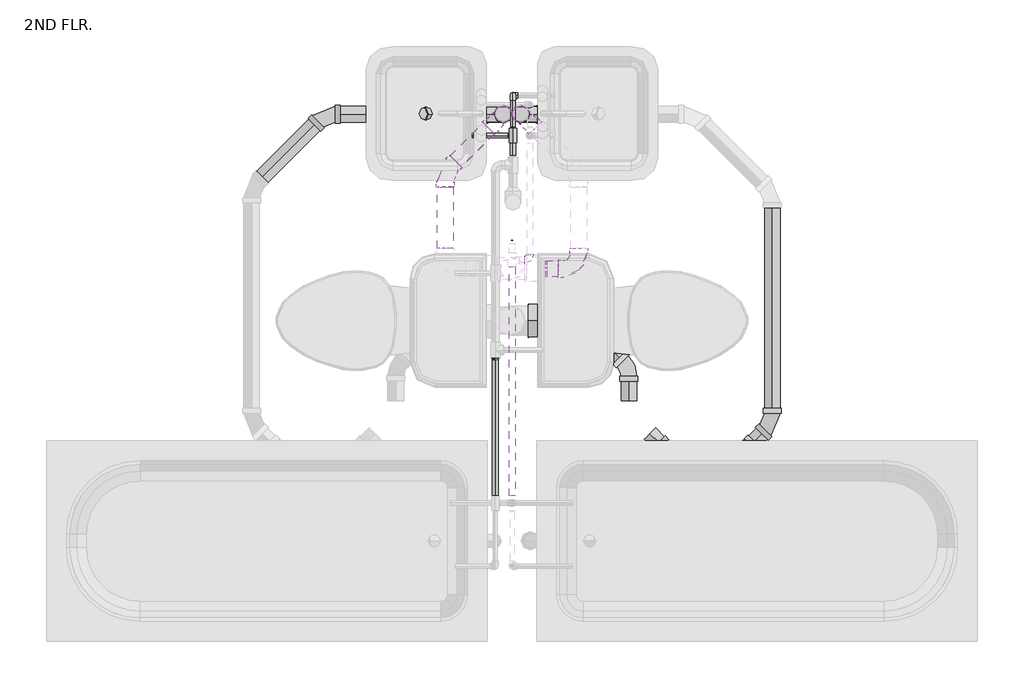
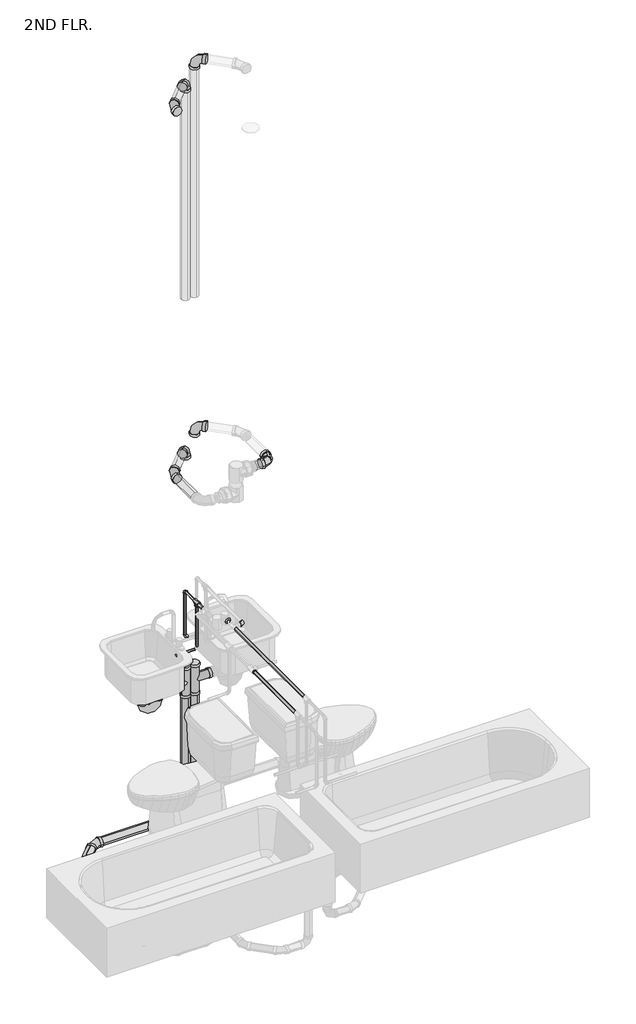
# One storey, part 14 of 15: 31 pipe segments, 27 pipe fittings.
"""IFC4 building model written with IfcOpenShell, lengths in millimetres."""

from ifc_helpers import new_model, si_unit, point, frame, frame_2d, origin, place, context, project, spatial, circle_curve, trimmed, segment, composite_curve, outline, extrude, transform, mapped, element, save
from components import bend_pvc_sch_40_dwv_standard_e59a9f3a, bend_pvc_sch_40_dwv_standard_f2f5988a, bend_pvc_sch_40_dwv_standard_1eaeee76, bend_pvc_sch_40_dwv_standard_dc84db8a, bend_pvc_sch_40_dwv_standard_64a347df, bend_pvc_sch_40_dwv_standard_72717ed5, bend_pvc_sch_40_dwv_standard_49f8c181, bend_pvc_sch_40_dwv_standard_f64d1520, bend_pvc_sch_40_dwv_standard_56c8873b, ges_wye_45_deg_reducing_pvc_sch_40_dwv_standard_31e91cc2, ges_wye_45_deg_reducing_pvc_sch_40_dwv_standard_a2c526eb, pipe_elbow_copper_k_feaaf02c, pipe_elbow_copper_k_aad62f2d, pipe_tee_copper_k_ee363fbf, pipe_transition_copper_k_b4f16853, pipe_transition_copper_k_020baa9e, reducer_pvc_sch_40_dwv_standard_58c00515, standard_8c31f35f

model = new_model("IFC4")

# Units and contexts
model_context = context("Model", 3, world=origin())
ifc_project = project(units=[si_unit("LENGTHUNIT", "METRE", prefix="MILLI")], contexts=[model_context])

# Site, building, storey
site = spatial("IfcSite", under=ifc_project)
building = spatial("IfcBuilding", under=site)
storey = spatial("IfcBuildingStorey", under=building, Name="2ND FLR.", Elevation=2844.8)

# Pipe fittings
placement = place(None, origin())
bend_pvc_sch_40_dwv_standard_shape = bend_pvc_sch_40_dwv_standard_e59a9f3a(model_context)
element("IfcPipeFitting", 1, ObjectType="Bend - PVC - Sch 40 - DWV : Standard", at=placement, inside=storey, context=model_context, shape_type="MappedRepresentation", body=[
    mapped(bend_pvc_sch_40_dwv_standard_shape, transform((17387.0324353, 7019.0003975, 2448.8949826), x_axis=(0.7071067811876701, 0.7071067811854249, 0.0), y_axis=(-0.7071067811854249, 0.7071067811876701, 0.0), z_axis=(0.0, 0.0, 1.0))),
])
bend_pvc_sch_40_dwv_standard_2_shape = bend_pvc_sch_40_dwv_standard_f2f5988a(model_context)
element("IfcPipeFitting", 2, ObjectType="Bend - PVC - Sch 40 - DWV : Standard", at=placement, inside=storey, context=model_context, shape_type="MappedRepresentation", body=[
    mapped(bend_pvc_sch_40_dwv_standard_2_shape, transform((17932.9116861, 7289.6197731, 2448.8689525), x_axis=(0.707106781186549, 0.707106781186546, 0.0), y_axis=(-0.707106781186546, 0.707106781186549, 0.0), z_axis=(0.0, 0.0, 1.0))),
])
element("IfcPipeFitting", 3, ObjectType="Bend - PVC - Sch 40 - DWV : Standard", at=placement, inside=storey, context=model_context, shape_type="MappedRepresentation", body=[
    mapped(bend_pvc_sch_40_dwv_standard_2_shape, transform((17823.0889044, 7179.7969914, 2448.8689525), x_axis=(1.0, 0.0, 0.0), y_axis=(0.0, 1.0, 0.0), z_axis=(0.0, 0.0, 1.0))),
])
bend_pvc_sch_40_dwv_standard_3_shape = bend_pvc_sch_40_dwv_standard_1eaeee76(model_context)
element("IfcPipeFitting", 4, ObjectType="Bend - PVC - Sch 40 - DWV : Standard", at=placement, inside=storey, context=model_context, shape_type="MappedRepresentation", body=[
    mapped(bend_pvc_sch_40_dwv_standard_3_shape, transform((16975.4347258, 8465.2676718, 2448.8904025), x_axis=(0.0, 0.0, -1.0), y_axis=(1.0, 0.0, 0.0), z_axis=(0.0, -1.0, 0.0))),
])
element("IfcPipeFitting", 5, ObjectType="Bend - PVC - Sch 40 - DWV : Standard", at=placement, inside=storey, context=model_context, shape_type="MappedRepresentation", body=[
    mapped(bend_pvc_sch_40_dwv_standard_3_shape, transform((17196.3084875, 7876.8887644, 5283.2), x_axis=(1.0, 0.0, 0.0), y_axis=(0.0, 0.9999999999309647, -1.1750347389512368e-05), z_axis=(0.0, 1.1750347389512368e-05, 0.9999999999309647))),
])
element("IfcPipeFitting", 6, ObjectType="Bend - PVC - Sch 40 - DWV : Standard", at=placement, inside=storey, context=model_context, shape_type="MappedRepresentation", body=[
    mapped(bend_pvc_sch_40_dwv_standard_3_shape, transform((16975.4348028, 8465.2711191, 8127.995709), x_axis=(0.0, 0.0, 1.0), y_axis=(0.7071067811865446, -0.7071067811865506, 0.0), z_axis=(0.7071067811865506, 0.7071067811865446, 0.0))),
])
element("IfcPipeFitting", 7, ObjectType="Bend - PVC - Sch 40 - DWV : Standard", at=placement, inside=storey, context=model_context, shape_type="MappedRepresentation", body=[
    mapped(bend_pvc_sch_40_dwv_standard_3_shape, transform((16975.4348028, 8465.2711191, 5283.195709), x_axis=(0.0, 0.0, 1.0), y_axis=(0.7071067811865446, -0.7071067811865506, 0.0), z_axis=(0.7071067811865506, 0.7071067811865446, 0.0))),
])
bend_pvc_sch_40_dwv_standard_4_shape = bend_pvc_sch_40_dwv_standard_dc84db8a(model_context)
element("IfcPipeFitting", 8, ObjectType="Bend - PVC - Sch 40 - DWV : Standard", at=placement, inside=storey, context=model_context, shape_type="MappedRepresentation", body=[
    mapped(bend_pvc_sch_40_dwv_standard_4_shape, transform((17494.7109214, 7679.2137881, 2447.8717279), x_axis=(0.9999739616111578, 0.0, -0.0072163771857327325), y_axis=(0.0072163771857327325, 0.0, 0.9999739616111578), z_axis=(0.0, -1.0, 0.0))),
])
bend_pvc_sch_40_dwv_standard_5_shape = bend_pvc_sch_40_dwv_standard_64a347df(model_context)
element("IfcPipeFitting", 9, ObjectType="Bend - PVC - Sch 40 - DWV : Standard", at=placement, inside=storey, context=model_context, shape_type="MappedRepresentation", body=[
    mapped(bend_pvc_sch_40_dwv_standard_5_shape, transform((17387.0324353, 7501.2987647, 2448.8949826), x_axis=(0.0, 1.0, 0.0), y_axis=(-0.9999186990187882, 0.0, 0.012751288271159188), z_axis=(0.012751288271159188, 0.0, 0.9999186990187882))),
])
bend_pvc_sch_40_dwv_standard_6_shape = bend_pvc_sch_40_dwv_standard_72717ed5(model_context)
element("IfcPipeFitting", 10, ObjectType="Bend - PVC - Sch 40 - DWV : Standard", at=placement, inside=storey, context=model_context, shape_type="MappedRepresentation", body=[
    mapped(bend_pvc_sch_40_dwv_standard_6_shape, transform((17537.5048204, 7179.7969914, 2448.8689525), x_axis=(0.7071067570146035, -0.7071067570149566, -0.0002614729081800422), y_axis=(0.7071068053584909, 0.7071067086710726, 0.0002614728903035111), z_axis=(0.0, -0.0003697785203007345, 0.9999999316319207))),
])
bend_pvc_sch_40_dwv_standard_7_shape = bend_pvc_sch_40_dwv_standard_49f8c181(model_context)
element("IfcPipeFitting", 11, ObjectType="Bend - PVC - Sch 40 - DWV : Standard", at=placement, inside=storey, context=model_context, shape_type="MappedRepresentation", body=[
    mapped(bend_pvc_sch_40_dwv_standard_7_shape, transform((16909.1822491, 8465.2975466, 2291.20951), x_axis=(0.0, 0.0, -1.0), y_axis=(1.0, 0.0, 0.0), z_axis=(0.0, -1.0, 0.0))),
])
element("IfcPipeFitting", 12, ObjectType="Bend - PVC - Sch 40 - DWV : Standard", at=placement, inside=storey, context=model_context, shape_type="MappedRepresentation", body=[
    mapped(bend_pvc_sch_40_dwv_standard_7_shape, transform((16909.2449931, 8465.2082981, 7975.5947608), x_axis=(0.0, 0.0, 1.0), y_axis=(0.7071067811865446, 0.7071067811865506, 0.0), z_axis=(-0.7071067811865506, 0.7071067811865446, 0.0))),
])
element("IfcPipeFitting", 13, ObjectType="Bend - PVC - Sch 40 - DWV : Standard", at=placement, inside=storey, context=model_context, shape_type="MappedRepresentation", body=[
    mapped(bend_pvc_sch_40_dwv_standard_7_shape, transform((16909.2449931, 8465.2082981, 5130.7947608), x_axis=(0.0, 0.0, 1.0), y_axis=(0.7071067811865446, 0.7071067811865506, 0.0), z_axis=(-0.7071067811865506, 0.7071067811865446, 0.0))),
])
bend_pvc_sch_40_dwv_standard_8_shape = bend_pvc_sch_40_dwv_standard_f64d1520(model_context)
element("IfcPipeFitting", 14, ObjectType="Bend - PVC - Sch 40 - DWV : Standard", at=placement, inside=storey, context=model_context, shape_type="MappedRepresentation", body=[
    mapped(bend_pvc_sch_40_dwv_standard_8_shape, transform((16231.2763671, 8465.2975466, 2291.20951), x_axis=(0.707106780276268, 0.7071067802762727, 5.0741035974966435e-05), y_axis=(-0.7071067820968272, 0.7071067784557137, 5.074103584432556e-05), z_axis=(0.0, -7.17586611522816e-05, 0.9999999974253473))),
])
element("IfcPipeFitting", 15, ObjectType="Bend - PVC - Sch 40 - DWV : Standard", at=placement, inside=storey, context=model_context, shape_type="MappedRepresentation", body=[
    mapped(bend_pvc_sch_40_dwv_standard_8_shape, transform((16688.3084875, 8244.2717925, 7975.5957104), x_axis=(0.0, 0.9999999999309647, -1.1750347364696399e-05), y_axis=(-0.9999999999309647, 1.3807066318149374e-10, 1.175034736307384e-05), z_axis=(1.1750347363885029e-05, 1.175034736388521e-05, 0.9999999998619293))),
])
element("IfcPipeFitting", 16, ObjectType="Bend - PVC - Sch 40 - DWV : Standard", at=placement, inside=storey, context=model_context, shape_type="MappedRepresentation", body=[
    mapped(bend_pvc_sch_40_dwv_standard_8_shape, transform((16688.3084875, 8244.2717925, 5130.7957104), x_axis=(0.0, 0.9999999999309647, -1.1750347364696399e-05), y_axis=(-0.9999999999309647, 1.3807066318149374e-10, 1.175034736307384e-05), z_axis=(1.1750347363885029e-05, 1.175034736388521e-05, 0.9999999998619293))),
])
bend_pvc_sch_40_dwv_standard_9_shape = bend_pvc_sch_40_dwv_standard_56c8873b(model_context)
element("IfcPipeFitting", 17, ObjectType="Bend - PVC - Sch 40 - DWV : Standard", at=placement, inside=storey, context=model_context, shape_type="MappedRepresentation", body=[
    mapped(bend_pvc_sch_40_dwv_standard_9_shape, transform((17196.3084875, 7876.8887644, 5283.1990858), x_axis=(0.9999989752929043, 0.0, -0.0014315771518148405), y_axis=(-1.2572894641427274e-08, 0.9999999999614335, -8.782538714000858e-06), z_axis=(0.0014315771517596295, 8.782547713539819e-06, 0.9999989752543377))),
])
ges_wye_45_deg_reducing_pvc_sch_40_dwv_standard_shape = ges_wye_45_deg_reducing_pvc_sch_40_dwv_standard_31e91cc2(model_context)
element("IfcPipeFitting", 18, ObjectType="GES Wye 45 Deg Reducing - PVC - Sch 40 - DWV : Standard", at=placement, inside=storey, context=model_context, shape_type="MappedRepresentation", body=[
    mapped(ges_wye_45_deg_reducing_pvc_sch_40_dwv_standard_shape, transform((16975.4347258, 8465.2710421, 3322.6721683), x_axis=(0.0, 0.0, 1.0), y_axis=(-1.0, 0.0, 0.0), z_axis=(0.0, -1.0, 0.0))),
])
ges_wye_45_deg_reducing_pvc_sch_40_dwv_standard_2_shape = ges_wye_45_deg_reducing_pvc_sch_40_dwv_standard_a2c526eb(model_context)
element("IfcPipeFitting", 19, ObjectType="GES Wye 45 Deg Reducing - PVC - Sch 40 - DWV : Standard", at=placement, inside=storey, context=model_context, shape_type="MappedRepresentation", body=[
    mapped(ges_wye_45_deg_reducing_pvc_sch_40_dwv_standard_2_shape, transform((16909.1822491, 8465.2710421, 3322.6721683), x_axis=(0.0, 0.0, 1.0), y_axis=(-1.0, 0.0, 0.0), z_axis=(0.0, -1.0, 0.0))),
])
pipe_elbow_copper_k_shape = pipe_elbow_copper_k_feaaf02c(model_context)
element("IfcPipeFitting", 20, ObjectType="Pipe Elbow : Copper- K", at=placement, inside=storey, context=model_context, shape_type="MappedRepresentation", body=[
    mapped(pipe_elbow_copper_k_shape, transform((17010.9709875, 7910.5468309, 4064.0), x_axis=(1.0, 0.0, 0.0), y_axis=(0.0, 1.0, 0.0), z_axis=(0.0, 0.0, 1.0))),
])
pipe_elbow_copper_k_2_shape = pipe_elbow_copper_k_aad62f2d(model_context)
element("IfcPipeFitting", 21, ObjectType="Pipe Elbow : Copper- K", at=placement, inside=storey, context=model_context, shape_type="MappedRepresentation", body=[
    mapped(pipe_elbow_copper_k_2_shape, transform((16945.8834875, 8536.03262, 3962.4), x_axis=(0.0, 1.0, 0.0), y_axis=(0.0, 0.0, -1.0), z_axis=(-1.0, 0.0, 0.0))),
])
element("IfcPipeFitting", 22, ObjectType="Pipe Elbow : Copper- K", at=placement, inside=storey, context=model_context, shape_type="MappedRepresentation", body=[
    mapped(pipe_elbow_copper_k_2_shape, transform((16945.8834875, 8536.03262, 3606.8), x_axis=(0.0, 0.0, -1.0), y_axis=(1.0, 0.0, 0.0), z_axis=(0.0, -1.0, 0.0))),
])
pipe_tee_copper_k_shape = pipe_tee_copper_k_ee363fbf(model_context)
element("IfcPipeFitting", 23, ObjectType="Pipe Tee : Copper- K", at=placement, inside=storey, context=model_context, shape_type="MappedRepresentation", body=[
    mapped(pipe_tee_copper_k_shape, transform((16945.8834875, 8383.3740436, 3962.4), x_axis=(0.0, -1.0, 0.0), y_axis=(0.0, 0.0, 1.0), z_axis=(-1.0, 0.0, 0.0))),
])
pipe_transition_copper_k_shape = pipe_transition_copper_k_b4f16853(model_context)
element("IfcPipeFitting", 24, ObjectType="Pipe Transition : Copper- K", at=placement, inside=storey, context=model_context, shape_type="MappedRepresentation", body=[
    mapped(pipe_transition_copper_k_shape, transform((16879.2084875, 7537.3873426, 3962.4), x_axis=(0.0, -1.0, 0.0), y_axis=(1.0, 0.0, 0.0), z_axis=(0.0, 0.0, 1.0))),
])
pipe_transition_copper_k_2_shape = pipe_transition_copper_k_020baa9e(model_context)
element("IfcPipeFitting", 25, ObjectType="Pipe Transition : Copper- K", at=placement, inside=storey, context=model_context, shape_type="MappedRepresentation", body=[
    mapped(pipe_transition_copper_k_2_shape, transform((16942.3721831, 7984.6511076, 4064.0), x_axis=(0.012699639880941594, -0.9999193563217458, 0.0), y_axis=(0.9999193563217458, 0.012699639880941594, 0.0), z_axis=(0.0, 0.0, 1.0))),
])
reducer_pvc_sch_40_dwv_standard_shape = reducer_pvc_sch_40_dwv_standard_58c00515(model_context)
element("IfcPipeFitting", 26, ObjectType="Reducer - PVC - Sch 40 - DWV : Standard", at=placement, inside=storey, context=model_context, shape_type="MappedRepresentation", body=[
    mapped(reducer_pvc_sch_40_dwv_standard_shape, transform((17004.0174651, 7679.2137881, 2451.4128491), x_axis=(0.9999739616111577, 0.0, -0.007216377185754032), y_axis=(0.007216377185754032, 0.0, 0.9999739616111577), z_axis=(0.0, -1.0, 0.0))),
])
standard_shape = standard_8c31f35f(model_context)
element("IfcPipeFitting", 27, ObjectType="GES P TRAP PVC Sch 40 - DWV : Standard", at=placement, inside=storey, context=model_context, shape_type="MappedRepresentation", body=[
    mapped(standard_shape, transform((16589.3699643, 8465.2710421, 3322.6721683), x_axis=(0.0, 0.0, -1.0), y_axis=(-1.0, 0.0, 0.0), z_axis=(0.0, 1.0, 0.0))),
])

# Pipe segments
element("IfcPipeSegment", 28, ObjectType="Copper", at=placement, inside=storey, context=model_context, shape_type="SweptSolid", body=[
    extrude(outline(composite_curve([segment(trimmed(circle_curve(frame_2d((3962.4, 16945.8834875)), 7.9375), [point((3962.4, 16953.8209875))], [point((3970.3375, 16945.8834875))], False, "CARTESIAN"), True, "CONTINUOUS"), segment(trimmed(circle_curve(frame_2d((3962.4, 16945.8834875)), 7.9375), [point((3970.3375, 16945.8834875))], [point((3962.4, 16937.9459875))], False, "CARTESIAN"), True, "CONTINUOUS"), segment(trimmed(circle_curve(frame_2d((3962.4, 16945.8834875)), 7.9375), [point((3962.4, 16937.9459875))], [point((3954.4625, 16945.8834875))], False, "CARTESIAN"), True, "CONTINUOUS"), segment(trimmed(circle_curve(frame_2d((3962.4, 16945.8834875)), 7.9375), [point((3954.4625, 16945.8834875))], [point((3962.4, 16953.8209875))], False, "CARTESIAN"), True, "CONTINUOUS")], self_intersect=False)), frame((0.0, 8415.9177936, 0.0), z_axis=(0.0, 1.0, 0.0), x_axis=(0.0, 0.0, 1.0)), (0.0, 0.0, 1.0), 102.6523264),
])
element("IfcPipeSegment", 29, ObjectType="Copper", at=placement, inside=storey, context=model_context, shape_type="SweptSolid", body=[
    extrude(outline(composite_curve([segment(trimmed(circle_curve(frame_2d((16945.8834875, 8536.03262)), 7.9375), [point((16953.8209875, 8536.03262))], [point((16945.8834875, 8528.09512))], False, "CARTESIAN"), True, "CONTINUOUS"), segment(trimmed(circle_curve(frame_2d((16945.8834875, 8536.03262)), 7.9375), [point((16945.8834875, 8528.09512))], [point((16937.9459875, 8536.03262))], False, "CARTESIAN"), True, "CONTINUOUS"), segment(trimmed(circle_curve(frame_2d((16945.8834875, 8536.03262)), 7.9375), [point((16937.9459875, 8536.03262))], [point((16945.8834875, 8543.97012))], False, "CARTESIAN"), True, "CONTINUOUS"), segment(trimmed(circle_curve(frame_2d((16945.8834875, 8536.03262)), 7.9375), [point((16945.8834875, 8543.97012))], [point((16953.8209875, 8536.03262))], False, "CARTESIAN"), True, "CONTINUOUS")], self_intersect=False)), frame((0.0, 0.0, 3624.2625), z_axis=(0.0, 0.0, 1.0), x_axis=(1.0, 0.0, 0.0)), (0.0, 0.0, 1.0), 320.675),
])
element("IfcPipeSegment", 30, ObjectType="Copper", at=placement, inside=storey, context=model_context, shape_type="SweptSolid", body=[
    extrude(outline(composite_curve([segment(trimmed(circle_curve(frame_2d((8383.3740436, 3606.8)), 7.9375), [point((8391.3115436, 3606.8))], [point((8383.3740436, 3598.8625))], False, "CARTESIAN"), True, "CONTINUOUS"), segment(trimmed(circle_curve(frame_2d((8383.3740436, 3606.8)), 7.9375), [point((8383.3740436, 3598.8625))], [point((8375.4365436, 3606.8))], False, "CARTESIAN"), True, "CONTINUOUS"), segment(trimmed(circle_curve(frame_2d((8383.3740436, 3606.8)), 7.9375), [point((8375.4365436, 3606.8))], [point((8383.3740436, 3614.7375))], False, "CARTESIAN"), True, "CONTINUOUS"), segment(trimmed(circle_curve(frame_2d((8383.3740436, 3606.8)), 7.9375), [point((8383.3740436, 3614.7375))], [point((8391.3115436, 3606.8))], False, "CARTESIAN"), True, "CONTINUOUS")], self_intersect=False)), frame((16791.8959875, 0.0, 0.0), z_axis=(1.0, 0.0, 0.0), x_axis=(0.0, 1.0, 0.0)), (0.0, 0.0, 1.0), 136.525),
])
element("IfcPipeSegment", 31, ObjectType="Copper", at=placement, inside=storey, context=model_context, shape_type="SweptSolid", body=[
    extrude(outline(composite_curve([segment(trimmed(circle_curve(frame_2d((16945.8834875, 8383.3740436)), 7.9375), [point((16953.8209875, 8383.3740436))], [point((16945.8834875, 8375.4365436))], False, "CARTESIAN"), True, "CONTINUOUS"), segment(trimmed(circle_curve(frame_2d((16945.8834875, 8383.3740436)), 7.9375), [point((16945.8834875, 8375.4365436))], [point((16937.9459875, 8383.3740436))], False, "CARTESIAN"), True, "CONTINUOUS"), segment(trimmed(circle_curve(frame_2d((16945.8834875, 8383.3740436)), 7.9375), [point((16937.9459875, 8383.3740436))], [point((16945.8834875, 8391.3115436))], False, "CARTESIAN"), True, "CONTINUOUS"), segment(trimmed(circle_curve(frame_2d((16945.8834875, 8383.3740436)), 7.9375), [point((16945.8834875, 8391.3115436))], [point((16953.8209875, 8383.3740436))], False, "CARTESIAN"), True, "CONTINUOUS")], self_intersect=False)), frame((0.0, 0.0, 3624.2625), z_axis=(0.0, 0.0, 1.0), x_axis=(1.0, 0.0, 0.0)), (0.0, 0.0, 1.0), 305.59375),
])
element("IfcPipeSegment", 32, ObjectType="Copper", at=placement, inside=storey, context=model_context, shape_type="SweptSolid", body=[
    extrude(outline(composite_curve([segment(trimmed(circle_curve(frame_2d((3962.4, 16945.8834875)), 11.1125), [point((3962.4, 16956.9959875))], [point((3973.5125, 16945.8834875))], False, "CARTESIAN"), True, "CONTINUOUS"), segment(trimmed(circle_curve(frame_2d((3962.4, 16945.8834875)), 11.1125), [point((3973.5125, 16945.8834875))], [point((3962.4, 16934.7709875))], False, "CARTESIAN"), True, "CONTINUOUS"), segment(trimmed(circle_curve(frame_2d((3962.4, 16945.8834875)), 11.1125), [point((3962.4, 16934.7709875))], [point((3951.2875, 16945.8834875))], False, "CARTESIAN"), True, "CONTINUOUS"), segment(trimmed(circle_curve(frame_2d((3962.4, 16945.8834875)), 11.1125), [point((3951.2875, 16945.8834875))], [point((3962.4, 16956.9959875))], False, "CARTESIAN"), True, "CONTINUOUS")], self_intersect=False)), frame((0.0, 8308.4155408, 0.0), z_axis=(0.0, 1.0, 0.0), x_axis=(0.0, 0.0, 1.0)), (0.0, 0.0, 1.0), 47.9710027),
])
element("IfcPipeSegment", 33, ObjectType="Copper", at=placement, inside=storey, context=model_context, shape_type="SweptSolid", body=[
    extrude(outline(composite_curve([segment(trimmed(circle_curve(frame_2d((4064.0, 16942.7084875)), 11.1125), [point((4064.0, 16931.5959875))], [point((4052.8875, 16942.7084875))], False, "CARTESIAN"), True, "CONTINUOUS"), segment(trimmed(circle_curve(frame_2d((4064.0, 16942.7084875)), 11.1125), [point((4052.8875, 16942.7084875))], [point((4064.0, 16953.8209875))], False, "CARTESIAN"), True, "CONTINUOUS"), segment(trimmed(circle_curve(frame_2d((4064.0, 16942.7084875)), 11.1125), [point((4064.0, 16953.8209875))], [point((4075.1125, 16942.7084875))], False, "CARTESIAN"), True, "CONTINUOUS"), segment(trimmed(circle_curve(frame_2d((4064.0, 16942.7084875)), 11.1125), [point((4075.1125, 16942.7084875))], [point((4064.0, 16931.5959875))], False, "CARTESIAN"), True, "CONTINUOUS")], self_intersect=False)), frame((0.0, 7013.009719, 0.0), z_axis=(0.0, 1.0, 0.0), x_axis=(0.0, 0.0, 1.0)), (0.0, 0.0, 1.0), 870.5496119),
])
element("IfcPipeSegment", 34, ObjectType="Copper", at=placement, inside=storey, context=model_context, shape_type="SweptSolid", body=[
    extrude(outline(composite_curve([segment(trimmed(circle_curve(frame_2d((3962.4, 16879.2084875)), 11.1125), [point((3962.4, 16868.0959875))], [point((3951.2875, 16879.2084875))], False, "CARTESIAN"), True, "CONTINUOUS"), segment(trimmed(circle_curve(frame_2d((3962.4, 16879.2084875)), 11.1125), [point((3951.2875, 16879.2084875))], [point((3962.4, 16890.3209875))], False, "CARTESIAN"), True, "CONTINUOUS"), segment(trimmed(circle_curve(frame_2d((3962.4, 16879.2084875)), 11.1125), [point((3962.4, 16890.3209875))], [point((3973.5125, 16879.2084875))], False, "CARTESIAN"), True, "CONTINUOUS"), segment(trimmed(circle_curve(frame_2d((3962.4, 16879.2084875)), 11.1125), [point((3973.5125, 16879.2084875))], [point((3962.4, 16868.0959875))], False, "CARTESIAN"), True, "CONTINUOUS")], self_intersect=False)), frame((0.0, 7013.009719, 0.0), z_axis=(0.0, 1.0, 0.0), x_axis=(0.0, 0.0, 1.0)), (0.0, 0.0, 1.0), 517.2338736),
])
element("IfcPipeSegment", 35, ObjectType="PVC - SAN/STORM", at=placement, inside=storey, context=model_context, shape_type="SweptSolid", body=[
    extrude(outline(composite_curve([segment(trimmed(circle_curve(frame_2d((0.0, -44.45)), 44.45), [point((0.0, -88.9))], [point((-44.45, -44.45))], False, "CARTESIAN"), True, "CONTINUOUS"), segment(trimmed(circle_curve(frame_2d((0.0, -44.45)), 44.45), [point((-44.45, -44.45))], [point((0.0, 0.0))], False, "CARTESIAN"), True, "CONTINUOUS"), segment(trimmed(circle_curve(frame_2d((0.0, -44.45)), 44.45), [point((0.0, 0.0))], [point((44.45, -44.45))], False, "CARTESIAN"), True, "CONTINUOUS"), segment(trimmed(circle_curve(frame_2d((0.0, -44.45)), 44.45), [point((44.45, -44.45))], [point((0.0, -88.9))], False, "CARTESIAN"), True, "CONTINUOUS")], self_intersect=False)), frame((17148.7939828, 7723.6637881, 2450.36806), z_axis=(-0.9999739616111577, 0.0, 0.007216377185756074), x_axis=(0.007216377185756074, 0.0, 0.9999739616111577)), (0.0, 0.0, 1.0), 38.4050875),
])
element("IfcPipeSegment", 36, ObjectType="PVC - SAN/STORM", at=placement, inside=storey, context=model_context, shape_type="SweptSolid", body=[
    extrude(outline(composite_curve([segment(trimmed(circle_curve(frame_2d((17494.7109214, 7679.2137881)), 44.45), [point((17450.2609214, 7679.2137881))], [point((17494.7109214, 7723.6637881))], False, "CARTESIAN"), True, "CONTINUOUS"), segment(trimmed(circle_curve(frame_2d((17494.7109214, 7679.2137881)), 44.45), [point((17494.7109214, 7723.6637881))], [point((17539.1609214, 7679.2137881))], False, "CARTESIAN"), True, "CONTINUOUS"), segment(trimmed(circle_curve(frame_2d((17494.7109214, 7679.2137881)), 44.45), [point((17539.1609214, 7679.2137881))], [point((17494.7109214, 7634.7637881))], False, "CARTESIAN"), True, "CONTINUOUS"), segment(trimmed(circle_curve(frame_2d((17494.7109214, 7679.2137881)), 44.45), [point((17494.7109214, 7634.7637881))], [point((17450.2609214, 7679.2137881))], False, "CARTESIAN"), True, "CONTINUOUS")], self_intersect=False)), frame((0.0, 0.0, 2563.7719279), z_axis=(0.0, 0.0, 1.0), x_axis=(1.0, 0.0, 0.0)), (0.0, 0.0, 1.0), 281.0280721),
])
element("IfcPipeSegment", 37, ObjectType="PVC - SAN/STORM", at=placement, inside=storey, context=model_context, shape_type="SweptSolid", body=[
    extrude(outline(composite_curve([segment(trimmed(circle_curve(frame_2d((0.0, -30.1625)), 30.1625), [point((-30.1625, -30.1625))], [point((0.0, 0.0))], False, "CARTESIAN"), True, "CONTINUOUS"), segment(trimmed(circle_curve(frame_2d((0.0, -30.1625)), 30.1625), [point((0.0, 0.0))], [point((30.1624999, -30.1625))], False, "CARTESIAN"), True, "CONTINUOUS"), segment(trimmed(circle_curve(frame_2d((0.0, -30.1625)), 30.1625), [point((30.1624999, -30.1625))], [point((0.0, -60.325))], False, "CARTESIAN"), True, "CONTINUOUS"), segment(trimmed(circle_curve(frame_2d((0.0, -30.1625)), 30.1625), [point((0.0, -60.325))], [point((-30.1625, -30.1625))], False, "CARTESIAN"), True, "CONTINUOUS")], self_intersect=False)), frame((17349.9814049, 7538.3497952, 2419.2049694), z_axis=(-0.7071067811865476, 0.7071067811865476, 0.0), x_axis=(0.7071067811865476, 0.7071067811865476, 0.0)), (0.0, 0.0, 1.0), 62.6870104),
])
element("IfcPipeSegment", 38, ObjectType="PVC - SAN/STORM", at=placement, inside=storey, context=model_context, shape_type="SweptSolid", body=[
    extrude(outline(composite_curve([segment(trimmed(circle_curve(frame_2d((0.0, 44.45)), 44.45), [point((0.0, 88.9))], [point((44.45, 44.45))], False, "CARTESIAN"), True, "CONTINUOUS"), segment(trimmed(circle_curve(frame_2d((0.0, 44.45)), 44.45), [point((44.45, 44.45))], [point((0.0, 0.0))], False, "CARTESIAN"), True, "CONTINUOUS"), segment(trimmed(circle_curve(frame_2d((0.0, 44.45)), 44.45), [point((0.0, 0.0))], [point((-44.45, 44.45))], False, "CARTESIAN"), True, "CONTINUOUS"), segment(trimmed(circle_curve(frame_2d((0.0, 44.45)), 44.45), [point((-44.45, 44.45))], [point((0.0, 88.9))], False, "CARTESIAN"), True, "CONTINUOUS")], self_intersect=False)), frame((17378.8137392, 7634.7637881, 2448.7081074), z_axis=(-0.9999739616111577, 0.0, 0.007216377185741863), x_axis=(0.007216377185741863, 0.0, 0.9999739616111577)), (0.0, 0.0, 1.0), 24.270256),
])
element("IfcPipeSegment", 39, ObjectType="PVC - SAN/STORM", at=placement, inside=storey, context=model_context, shape_type="SweptSolid", body=[
    extrude(outline(composite_curve([segment(trimmed(circle_curve(frame_2d((2448.8949826, 17387.0324353)), 24.13), [point((2448.8949826, 17362.9024353))], [point((2424.7649826, 17387.0324353))], False, "CARTESIAN"), True, "CONTINUOUS"), segment(trimmed(circle_curve(frame_2d((2448.8949826, 17387.0324353)), 24.13), [point((2424.7649826, 17387.0324353))], [point((2448.8949826, 17411.1624353))], False, "CARTESIAN"), True, "CONTINUOUS"), segment(trimmed(circle_curve(frame_2d((2448.8949826, 17387.0324353)), 24.13), [point((2448.8949826, 17411.1624353))], [point((2473.0249826, 17387.0324353))], False, "CARTESIAN"), True, "CONTINUOUS"), segment(trimmed(circle_curve(frame_2d((2448.8949826, 17387.0324353)), 24.13), [point((2473.0249826, 17387.0324353))], [point((2448.8949826, 17362.9024353))], False, "CARTESIAN"), True, "CONTINUOUS")], self_intersect=False)), frame((0.0, 7065.0251975, 0.0), z_axis=(0.0, 1.0, 0.0), x_axis=(0.0, 0.0, 1.0)), (0.0, 0.0, 1.0), 148.2184415),
])
element("IfcPipeSegment", 40, ObjectType="PVC - SAN/STORM", at=placement, inside=storey, context=model_context, shape_type="SweptSolid", body=[
    extrude(outline(composite_curve([segment(trimmed(circle_curve(frame_2d((0.0, -30.1625)), 30.1625), [point((-30.1625, -30.1625))], [point((0.0, 0.0))], False, "CARTESIAN"), True, "CONTINUOUS"), segment(trimmed(circle_curve(frame_2d((0.0, -30.1625)), 30.1625), [point((0.0, 0.0))], [point((30.1625, -30.1625))], False, "CARTESIAN"), True, "CONTINUOUS"), segment(trimmed(circle_curve(frame_2d((0.0, -30.1625)), 30.1625), [point((30.1625, -30.1625))], [point((0.0, -60.325))], False, "CARTESIAN"), True, "CONTINUOUS"), segment(trimmed(circle_curve(frame_2d((0.0, -30.1625)), 30.1625), [point((0.0, -60.325))], [point((-30.1625, -30.1625))], False, "CARTESIAN"), True, "CONTINUOUS")], self_intersect=False)), frame((16975.4347258, 8435.1051718, 2526.6907526), z_axis=(0.0, 4.975628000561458e-06, 0.9999999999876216), x_axis=(-1.0, 0.0, 0.0)), (0.0, 0.0, 1.0), 677.3556283),
])
element("IfcPipeSegment", 41, ObjectType="PVC - SAN/STORM", at=placement, inside=storey, context=model_context, shape_type="SweptSolid", body=[
    extrude(outline(composite_curve([segment(trimmed(circle_curve(frame_2d((2448.8689525, 17932.9116861)), 30.1625), [point((2448.8689525, 17902.7491861))], [point((2418.7064525, 17932.9116861))], False, "CARTESIAN"), True, "CONTINUOUS"), segment(trimmed(circle_curve(frame_2d((2448.8689525, 17932.9116861)), 30.1625), [point((2418.7064525, 17932.9116861))], [point((2448.8689525, 17963.0741861))], False, "CARTESIAN"), True, "CONTINUOUS"), segment(trimmed(circle_curve(frame_2d((2448.8689525, 17932.9116861)), 30.1625), [point((2448.8689525, 17963.0741861))], [point((2479.0314525, 17932.9116861))], False, "CARTESIAN"), True, "CONTINUOUS"), segment(trimmed(circle_curve(frame_2d((2448.8689525, 17932.9116861)), 30.1625), [point((2479.0314525, 17932.9116861))], [point((2448.8689525, 17902.7491861))], False, "CARTESIAN"), True, "CONTINUOUS")], self_intersect=False)), frame((0.0, 7346.7697731, 0.0), z_axis=(0.0, 1.0, 0.0), x_axis=(0.0, 0.0, 1.0)), (0.0, 0.0, 1.0), 762.429973),
])
element("IfcPipeSegment", 42, ObjectType="PVC - SAN/STORM", at=placement, inside=storey, context=model_context, shape_type="SweptSolid", body=[
    extrude(outline(composite_curve([segment(trimmed(circle_curve(frame_2d((0.0, -30.1625)), 30.1625), [point((-30.1625, -30.1625))], [point((0.0, 0.0))], False, "CARTESIAN"), True, "CONTINUOUS"), segment(trimmed(circle_curve(frame_2d((0.0, -30.1625)), 30.1625), [point((0.0, 0.0))], [point((30.1624999, -30.1625))], False, "CARTESIAN"), True, "CONTINUOUS"), segment(trimmed(circle_curve(frame_2d((0.0, -30.1625)), 30.1625), [point((30.1624999, -30.1625))], [point((0.0, -60.325))], False, "CARTESIAN"), True, "CONTINUOUS"), segment(trimmed(circle_curve(frame_2d((0.0, -30.1625)), 30.1625), [point((0.0, -60.325))], [point((-30.1625, -30.1625))], False, "CARTESIAN"), True, "CONTINUOUS")], self_intersect=False)), frame((17863.500057, 7220.208144, 2418.7064525), z_axis=(0.7071067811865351, 0.70710678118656, 0.0), x_axis=(0.70710678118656, -0.7071067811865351, 0.0)), (0.0, 0.0, 1.0), 41.0128673),
])
element("IfcPipeSegment", 43, ObjectType="PVC - SAN/STORM", at=placement, inside=storey, context=model_context, shape_type="SweptSolid", body=[
    extrude(outline(composite_curve([segment(trimmed(circle_curve(frame_2d((7179.7969914, 2448.8689525)), 30.1625), [point((7209.9594914, 2448.8689525))], [point((7179.7969914, 2418.7064525))], False, "CARTESIAN"), True, "CONTINUOUS"), segment(trimmed(circle_curve(frame_2d((7179.7969914, 2448.8689525)), 30.1625), [point((7179.7969914, 2418.7064525))], [point((7149.6344914, 2448.8689525))], False, "CARTESIAN"), True, "CONTINUOUS"), segment(trimmed(circle_curve(frame_2d((7179.7969914, 2448.8689525)), 30.1625), [point((7149.6344914, 2448.8689525))], [point((7179.7969914, 2479.0314525))], False, "CARTESIAN"), True, "CONTINUOUS"), segment(trimmed(circle_curve(frame_2d((7179.7969914, 2448.8689525)), 30.1625), [point((7179.7969914, 2479.0314525))], [point((7209.9594914, 2448.8689525))], False, "CARTESIAN"), True, "CONTINUOUS")], self_intersect=False)), frame((17589.9050204, 0.0, 0.0), z_axis=(1.0, 0.0, 0.0), x_axis=(0.0, 1.0, 0.0)), (0.0, 0.0, 1.0), 176.033884),
])
element("IfcPipeSegment", 44, ObjectType="PVC - SAN/STORM", at=placement, inside=storey, context=model_context, shape_type="SweptSolid", body=[
    extrude(outline(composite_curve([segment(trimmed(circle_curve(frame_2d((0.0, -30.1625001)), 30.1625), [point((-30.162499, -30.1703867))], [point((-0.0078867, -1.1e-06))], False, "CARTESIAN"), True, "CONTINUOUS"), segment(trimmed(circle_curve(frame_2d((0.0, -30.1625001)), 30.1625), [point((-0.0078867, -1.1e-06))], [point((30.1624989, -30.1546134))], False, "CARTESIAN"), True, "CONTINUOUS"), segment(trimmed(circle_curve(frame_2d((0.0, -30.1625001)), 30.1625), [point((30.1624989, -30.1546134))], [point((0.0078866, -60.324999))], False, "CARTESIAN"), True, "CONTINUOUS"), segment(trimmed(circle_curve(frame_2d((0.0, -30.1625001)), 30.1625), [point((0.0078866, -60.324999))], [point((-30.162499, -30.1703867))], False, "CARTESIAN"), True, "CONTINUOUS")], self_intersect=False)), frame((17500.4522849, 7216.8606804, 2418.7201558), z_axis=(-0.7071067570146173, 0.7071067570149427, 0.00026147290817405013), x_axis=(0.707106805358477, 0.7071067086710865, 0.00026147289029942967)), (0.0, 0.0, 1.0), 47.1516099),
])
element("IfcPipeSegment", 45, ObjectType="PVC - SAN/STORM", at=placement, inside=storey, context=model_context, shape_type="SweptSolid", body=[
    extrude(outline(composite_curve([segment(trimmed(circle_curve(frame_2d((2448.8949826, 17387.0324353)), 30.1625), [point((2448.8949826, 17356.8699353))], [point((2418.7324826, 17387.0324353))], False, "CARTESIAN"), True, "CONTINUOUS"), segment(trimmed(circle_curve(frame_2d((2448.8949826, 17387.0324353)), 30.1625), [point((2418.7324826, 17387.0324353))], [point((2448.8949826, 17417.1949353))], False, "CARTESIAN"), True, "CONTINUOUS"), segment(trimmed(circle_curve(frame_2d((2448.8949826, 17387.0324353)), 30.1625), [point((2448.8949826, 17417.1949353))], [point((2479.0574826, 17387.0324353))], False, "CARTESIAN"), True, "CONTINUOUS"), segment(trimmed(circle_curve(frame_2d((2448.8949826, 17387.0324353)), 30.1625), [point((2479.0574826, 17387.0324353))], [point((2448.8949826, 17356.8699353))], False, "CARTESIAN"), True, "CONTINUOUS")], self_intersect=False)), frame((0.0, 7374.4375952, 0.0), z_axis=(0.0, 1.0, 0.0), x_axis=(0.0, 0.0, 1.0)), (0.0, 0.0, 1.0), 74.4609695),
])
element("IfcPipeSegment", 46, ObjectType="PVC - SAN/STORM", at=placement, inside=storey, context=model_context, shape_type="SweptSolid", body=[
    extrude(outline(composite_curve([segment(trimmed(circle_curve(frame_2d((7876.8887644, 5283.2)), 30.1625), [point((7846.7262644, 5283.2))], [point((7876.8887644, 5313.3625))], False, "CARTESIAN"), True, "CONTINUOUS"), segment(trimmed(circle_curve(frame_2d((7876.8887644, 5283.2)), 30.1625), [point((7876.8887644, 5313.3625))], [point((7907.0512644, 5283.2))], False, "CARTESIAN"), True, "CONTINUOUS"), segment(trimmed(circle_curve(frame_2d((7876.8887644, 5283.2)), 30.1625), [point((7907.0512644, 5283.2))], [point((7876.8887644, 5253.0375))], False, "CARTESIAN"), True, "CONTINUOUS"), segment(trimmed(circle_curve(frame_2d((7876.8887644, 5283.2)), 30.1625), [point((7876.8887644, 5253.0375))], [point((7846.7262644, 5283.2))], False, "CARTESIAN"), True, "CONTINUOUS")], self_intersect=False)), frame((17070.6934337, 0.0, 0.0), z_axis=(1.0, 0.0, 0.0), x_axis=(0.0, 1.0, 0.0)), (0.0, 0.0, 1.0), 47.8148538),
])
element("IfcPipeSegment", 47, ObjectType="PVC - SAN/STORM", at=placement, inside=storey, context=model_context, shape_type="SweptSolid", body=[
    extrude(outline(composite_curve([segment(trimmed(circle_curve(frame_2d((8465.2710421, 3322.6721683)), 30.1625), [point((8435.1085421, 3322.6721683))], [point((8465.2710421, 3352.8346683))], False, "CARTESIAN"), True, "CONTINUOUS"), segment(trimmed(circle_curve(frame_2d((8465.2710421, 3322.6721683)), 30.1625), [point((8465.2710421, 3352.8346683))], [point((8495.4335421, 3322.6721683))], False, "CARTESIAN"), True, "CONTINUOUS"), segment(trimmed(circle_curve(frame_2d((8465.2710421, 3322.6721683)), 30.1625), [point((8495.4335421, 3322.6721683))], [point((8465.2710421, 3292.5096683))], False, "CARTESIAN"), True, "CONTINUOUS"), segment(trimmed(circle_curve(frame_2d((8465.2710421, 3322.6721683)), 30.1625), [point((8465.2710421, 3292.5096683))], [point((8435.1085421, 3322.6721683))], False, "CARTESIAN"), True, "CONTINUOUS")], self_intersect=False)), frame((16781.4574643, 0.0, 0.0), z_axis=(1.0, 0.0, 0.0), x_axis=(0.0, 1.0, 0.0)), (0.0, 0.0, 1.0), 14.4765036),
])
element("IfcPipeSegment", 48, ObjectType="PVC - SAN/STORM", at=placement, inside=storey, context=model_context, shape_type="SweptSolid", body=[
    extrude(outline(composite_curve([segment(trimmed(circle_curve(frame_2d((16589.3699643, 8465.2710421)), 30.1625), [point((16559.2074643, 8465.2710421))], [point((16589.3699643, 8495.4335421))], False, "CARTESIAN"), True, "CONTINUOUS"), segment(trimmed(circle_curve(frame_2d((16589.3699643, 8465.2710421)), 30.1625), [point((16589.3699643, 8495.4335421))], [point((16619.5324643, 8465.2710421))], False, "CARTESIAN"), True, "CONTINUOUS"), segment(trimmed(circle_curve(frame_2d((16589.3699643, 8465.2710421)), 30.1625), [point((16619.5324643, 8465.2710421))], [point((16589.3699643, 8435.1085421))], False, "CARTESIAN"), True, "CONTINUOUS"), segment(trimmed(circle_curve(frame_2d((16589.3699643, 8465.2710421)), 30.1625), [point((16589.3699643, 8435.1085421))], [point((16559.2074643, 8465.2710421))], False, "CARTESIAN"), True, "CONTINUOUS")], self_intersect=False)), frame((0.0, 0.0, 3275.0471683), z_axis=(0.0, 0.0, 1.0), x_axis=(1.0, 0.0, 0.0)), (0.0, 0.0, 1.0), 143.9539175),
])
element("IfcPipeSegment", 49, ObjectType="PVC - SAN/STORM", at=placement, inside=storey, context=model_context, shape_type="SweptSolid", body=[
    extrude(outline(composite_curve([segment(trimmed(circle_curve(frame_2d((0.0, -30.1624999)), 30.1625), [point((-30.1625, -30.1624999))], [point((0.0, 0.0))], False, "CARTESIAN"), True, "CONTINUOUS"), segment(trimmed(circle_curve(frame_2d((0.0, -30.1624999)), 30.1625), [point((0.0, 0.0))], [point((30.1625, -30.1624999))], False, "CARTESIAN"), True, "CONTINUOUS"), segment(trimmed(circle_curve(frame_2d((0.0, -30.1624999)), 30.1625), [point((30.1625, -30.1624999))], [point((0.0, -60.3249999))], False, "CARTESIAN"), True, "CONTINUOUS"), segment(trimmed(circle_curve(frame_2d((0.0, -30.1624999)), 30.1625), [point((0.0, -60.3249999))], [point((-30.1625, -30.1624999))], False, "CARTESIAN"), True, "CONTINUOUS")], self_intersect=False)), frame((16909.1822491, 8435.1350467, 2369.0087526), z_axis=(0.0, -3.174057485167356e-05, 0.9999999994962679), x_axis=(-1.0, 0.0, 0.0)), (0.0, 0.0, 1.0), 835.0365212),
])
element("IfcPipeSegment", 50, ObjectType="PVC - SAN/STORM", at=placement, inside=storey, context=model_context, shape_type="SweptSolid", body=[
    extrude(outline(composite_curve([segment(trimmed(circle_curve(frame_2d((8465.2975466, 2291.20951)), 30.1625), [point((8495.4600466, 2291.20951))], [point((8465.2975466, 2261.04701))], False, "CARTESIAN"), True, "CONTINUOUS"), segment(trimmed(circle_curve(frame_2d((8465.2975466, 2291.20951)), 30.1625), [point((8465.2975466, 2261.04701))], [point((8435.1350466, 2291.20951))], False, "CARTESIAN"), True, "CONTINUOUS"), segment(trimmed(circle_curve(frame_2d((8465.2975466, 2291.20951)), 30.1625), [point((8435.1350466, 2291.20951))], [point((8465.2975466, 2321.37201))], False, "CARTESIAN"), True, "CONTINUOUS"), segment(trimmed(circle_curve(frame_2d((8465.2975466, 2291.20951)), 30.1625), [point((8465.2975466, 2321.37201))], [point((8495.4600466, 2291.20951))], False, "CARTESIAN"), True, "CONTINUOUS")], self_intersect=False)), frame((16288.4263671, 0.0, 0.0), z_axis=(1.0, 0.0, 0.0), x_axis=(0.0, 1.0, 0.0)), (0.0, 0.0, 1.0), 542.9556821),
])
element("IfcPipeSegment", 51, ObjectType="PVC - SAN/STORM", at=placement, inside=storey, context=model_context, shape_type="SweptSolid", body=[
    extrude(outline(composite_curve([segment(trimmed(circle_curve(frame_2d((0.0, -30.1625)), 30.1625), [point((-30.1625, -30.1609695))], [point((0.0015305, -1e-07))], False, "CARTESIAN"), True, "CONTINUOUS"), segment(trimmed(circle_curve(frame_2d((0.0, -30.1625)), 30.1625), [point((0.0015305, -1e-07))], [point((30.1625, -30.1640305))], False, "CARTESIAN"), True, "CONTINUOUS"), segment(trimmed(circle_curve(frame_2d((0.0, -30.1625)), 30.1625), [point((30.1625, -30.1640305))], [point((-0.0015305, -60.325))], False, "CARTESIAN"), True, "CONTINUOUS"), segment(trimmed(circle_curve(frame_2d((0.0, -30.1625)), 30.1625), [point((-0.0015305, -60.325))], [point((-30.1625, -30.1609695))], False, "CARTESIAN"), True, "CONTINUOUS")], self_intersect=False)), frame((15992.0689906, 8226.0923345, 2261.0298449), z_axis=(0.7071067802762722, 0.7071067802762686, 5.074103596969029e-05), x_axis=(0.707106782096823, -0.7071067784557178, -5.07410358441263e-05)), (0.0, 0.0, 1.0), 281.1403165),
])
element("IfcPipeSegment", 52, ObjectType="PVC - SAN/STORM", at=placement, inside=storey, context=model_context, shape_type="SweptSolid", body=[
    extrude(outline(composite_curve([segment(trimmed(circle_curve(frame_2d((5130.796382, 16688.3084875)), 30.1625), [point((5130.796382, 16658.1459875))], [point((5100.633882, 16688.3084875))], False, "CARTESIAN"), True, "CONTINUOUS"), segment(trimmed(circle_curve(frame_2d((5130.796382, 16688.3084875)), 30.1625), [point((5100.633882, 16688.3084875))], [point((5130.796382, 16718.4709875))], False, "CARTESIAN"), True, "CONTINUOUS"), segment(trimmed(circle_curve(frame_2d((5130.796382, 16688.3084875)), 30.1625), [point((5130.796382, 16718.4709875))], [point((5160.958882, 16688.3084875))], False, "CARTESIAN"), True, "CONTINUOUS"), segment(trimmed(circle_curve(frame_2d((5130.796382, 16688.3084875)), 30.1625), [point((5160.958882, 16688.3084875))], [point((5130.796382, 16658.1459875))], False, "CARTESIAN"), True, "CONTINUOUS")], self_intersect=False)), frame((0.0, 7954.6889644, 0.0), z_axis=(0.0, 1.0, 0.0), x_axis=(0.0, 0.0, 1.0)), (0.0, 0.0, 1.0), 232.4328281),
])
element("IfcPipeSegment", 53, ObjectType="PVC - SAN/STORM", at=placement, inside=storey, context=model_context, shape_type="SweptSolid", body=[
    extrude(outline(composite_curve([segment(trimmed(circle_curve(frame_2d((0.0, 30.1625)), 30.1625), [point((-30.1625, 30.1625))], [point((0.0, 60.325))], False, "CARTESIAN"), True, "CONTINUOUS"), segment(trimmed(circle_curve(frame_2d((0.0, 30.1625)), 30.1625), [point((0.0, 60.325))], [point((30.1625, 30.1625))], False, "CARTESIAN"), True, "CONTINUOUS"), segment(trimmed(circle_curve(frame_2d((0.0, 30.1625)), 30.1625), [point((30.1625, 30.1625))], [point((0.0, 0.0))], False, "CARTESIAN"), True, "CONTINUOUS"), segment(trimmed(circle_curve(frame_2d((0.0, 30.1625)), 30.1625), [point((0.0, 0.0))], [point((-30.1625, 30.1625))], False, "CARTESIAN"), True, "CONTINUOUS")], self_intersect=False)), frame((16975.4347258, 8435.1085421, 6286.0981071), z_axis=(4.3621934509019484e-08, 4.362194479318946e-08, 0.9999999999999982), x_axis=(0.9999999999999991, 0.0, -4.362193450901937e-08)), (0.0, 0.0, 1.0), 1764.0974032),
])
element("IfcPipeSegment", 54, ObjectType="PVC - SAN/STORM", at=placement, inside=storey, context=model_context, shape_type="SweptSolid", body=[
    extrude(outline(composite_curve([segment(trimmed(circle_curve(frame_2d((16909.2449931, 8465.2082981)), 30.1625), [point((16879.0824931, 8465.2082981))], [point((16909.2449931, 8495.3707981))], False, "CARTESIAN"), True, "CONTINUOUS"), segment(trimmed(circle_curve(frame_2d((16909.2449931, 8465.2082981)), 30.1625), [point((16909.2449931, 8495.3707981))], [point((16939.4074931, 8465.2082981))], False, "CARTESIAN"), True, "CONTINUOUS"), segment(trimmed(circle_curve(frame_2d((16909.2449931, 8465.2082981)), 30.1625), [point((16939.4074931, 8465.2082981))], [point((16909.2449931, 8435.0457981))], False, "CARTESIAN"), True, "CONTINUOUS"), segment(trimmed(circle_curve(frame_2d((16909.2449931, 8465.2082981)), 30.1625), [point((16909.2449931, 8435.0457981))], [point((16879.0824931, 8465.2082981))], False, "CARTESIAN"), True, "CONTINUOUS")], self_intersect=False)), frame((0.0, 0.0, 6286.0981058), z_axis=(0.0, 0.0, 1.0), x_axis=(1.0, 0.0, 0.0)), (0.0, 0.0, 1.0), 1611.696455),
])
element("IfcPipeSegment", 55, ObjectType="PVC - SAN/STORM", at=placement, inside=storey, context=model_context, shape_type="SweptSolid", body=[
    extrude(outline(composite_curve([segment(trimmed(circle_curve(frame_2d((0.0, -30.1625)), 30.1625), [point((-30.1624999, -30.1625))], [point((0.0, 0.0))], False, "CARTESIAN"), True, "CONTINUOUS"), segment(trimmed(circle_curve(frame_2d((0.0, -30.1625)), 30.1625), [point((0.0, 0.0))], [point((30.1625, -30.1625))], False, "CARTESIAN"), True, "CONTINUOUS"), segment(trimmed(circle_curve(frame_2d((0.0, -30.1625)), 30.1625), [point((30.1625, -30.1625))], [point((0.0, -60.325))], False, "CARTESIAN"), True, "CONTINUOUS"), segment(trimmed(circle_curve(frame_2d((0.0, -30.1625)), 30.1625), [point((0.0, -60.325))], [point((-30.1624999, -30.1625))], False, "CARTESIAN"), True, "CONTINUOUS")], self_intersect=False)), frame((16728.71964, 8284.6829451, 7945.4322608), z_axis=(0.707106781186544, 0.7071067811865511, 0.0), x_axis=(0.7071067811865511, -0.707106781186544, 0.0)), (0.0, 0.0, 1.0), 177.5012027),
])
element("IfcPipeSegment", 56, ObjectType="PVC - SAN/STORM", at=placement, inside=storey, context=model_context, shape_type="SweptSolid", body=[
    extrude(outline(composite_curve([segment(trimmed(circle_curve(frame_2d((0.0, -30.1625)), 30.1625), [point((-30.1624999, -30.1625))], [point((0.0, 0.0))], False, "CARTESIAN"), True, "CONTINUOUS"), segment(trimmed(circle_curve(frame_2d((0.0, -30.1625)), 30.1625), [point((0.0, 0.0))], [point((30.1625, -30.1625))], False, "CARTESIAN"), True, "CONTINUOUS"), segment(trimmed(circle_curve(frame_2d((0.0, -30.1625)), 30.1625), [point((30.1625, -30.1625))], [point((0.0, -60.325))], False, "CARTESIAN"), True, "CONTINUOUS"), segment(trimmed(circle_curve(frame_2d((0.0, -30.1625)), 30.1625), [point((0.0, -60.325))], [point((-30.1624999, -30.1625))], False, "CARTESIAN"), True, "CONTINUOUS")], self_intersect=False)), frame((16728.71964, 8284.6829451, 5100.6322608), z_axis=(0.707106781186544, 0.7071067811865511, 0.0), x_axis=(0.7071067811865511, -0.707106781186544, 0.0)), (0.0, 0.0, 1.0), 177.5012027),
])
element("IfcPipeSegment", 57, ObjectType="PVC - SAN/STORM", at=placement, inside=storey, context=model_context, shape_type="SweptSolid", body=[
    extrude(outline(composite_curve([segment(trimmed(circle_curve(frame_2d((0.0, 30.1625)), 30.1625), [point((-30.1625, 30.1625))], [point((0.0, 60.325))], False, "CARTESIAN"), True, "CONTINUOUS"), segment(trimmed(circle_curve(frame_2d((0.0, 30.1625)), 30.1625), [point((0.0, 60.325))], [point((30.1625, 30.1625))], False, "CARTESIAN"), True, "CONTINUOUS"), segment(trimmed(circle_curve(frame_2d((0.0, 30.1625)), 30.1625), [point((30.1625, 30.1625))], [point((0.0, 0.0))], False, "CARTESIAN"), True, "CONTINUOUS"), segment(trimmed(circle_curve(frame_2d((0.0, 30.1625)), 30.1625), [point((0.0, 0.0))], [point((-30.1625, 30.1625))], False, "CARTESIAN"), True, "CONTINUOUS")], self_intersect=False)), frame((17118.4651872, 7876.8887644, 5253.1479937), z_axis=(-0.9999989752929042, 0.0, 0.0014315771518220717), x_axis=(0.0, -1.0, 0.0)), (0.0, 0.0, 1.0), 41.2625677),
])
element("IfcPipeSegment", 58, ObjectType="PVC - SAN/STORM", at=placement, inside=storey, context=model_context, shape_type="SweptSolid", body=[
    extrude(outline(composite_curve([segment(trimmed(circle_curve(frame_2d((5130.796382, 16688.3084875)), 30.1625), [point((5130.796382, 16658.1459875))], [point((5100.633882, 16688.3084875))], False, "CARTESIAN"), True, "CONTINUOUS"), segment(trimmed(circle_curve(frame_2d((5130.796382, 16688.3084875)), 30.1625), [point((5100.633882, 16688.3084875))], [point((5130.796382, 16718.4709875))], False, "CARTESIAN"), True, "CONTINUOUS"), segment(trimmed(circle_curve(frame_2d((5130.796382, 16688.3084875)), 30.1625), [point((5130.796382, 16718.4709875))], [point((5160.958882, 16688.3084875))], False, "CARTESIAN"), True, "CONTINUOUS"), segment(trimmed(circle_curve(frame_2d((5130.796382, 16688.3084875)), 30.1625), [point((5160.958882, 16688.3084875))], [point((5130.796382, 16658.1459875))], False, "CARTESIAN"), True, "CONTINUOUS")], self_intersect=False)), frame((0.0, 7954.6889644, 0.0), z_axis=(0.0, 1.0, 0.0), x_axis=(0.0, 0.0, 1.0)), (0.0, 0.0, 1.0), 232.4328281),
])

save(model, "model.ifc")
